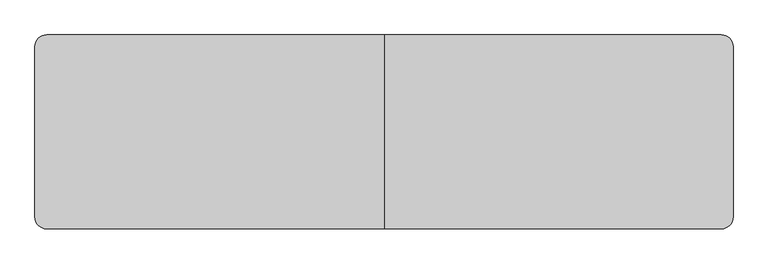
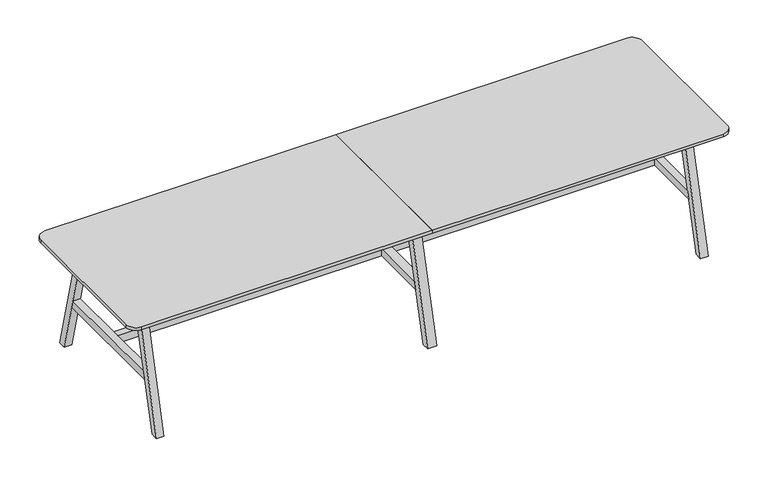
"""IFC4 building model written with IfcOpenShell, lengths in millimetres: furniture geometry, BDG_BossDesign_Tbls_AgentTables6Legs : AGE-DT-6L-3600-1000-3D."""

from ifc_helpers import new_model, si_unit, point, frame, frame_2d, origin, place, context, project, spatial, polyline, circle_curve, trimmed, segment, composite_curve, outline, extrude, source, transform, mapped, element, save


def furniture_64fc31fd(model_context):
    return source(origin(), model_context, "Body", "SweptSolid", [
        extrude(outline(polyline([(500.0, 0.0), (454.9999949, 0.0), (285.5, 660.0), (330.5000051, 660.0), (500.0, 0.0)])), frame((-27.5, 0.0, 0.0), z_axis=(1.0, 0.0, 0.0), x_axis=(0.0, 1.0, 0.0)), (0.0, 0.0, 1.0), 55.0),
        extrude(outline(polyline([(-500.0, 0.0), (-330.5000051, 660.0), (-285.5, 660.0), (-454.9999949, 0.0), (-500.0, 0.0)])), frame((-27.5, 0.0, 0.0), z_axis=(1.0, 0.0, 0.0), x_axis=(0.0, 1.0, 0.0)), (0.0, 0.0, 1.0), 55.0),
        extrude(outline(polyline([(377.9545427, 300.0), (-377.9545427, 300.0), (-366.3977249, 345.0), (366.3977249, 345.0), (377.9545427, 300.0)])), frame((-27.5, 0.0, 0.0), z_axis=(1.0, 0.0, 0.0), x_axis=(0.0, 1.0, 0.0)), (0.0, 0.0, 1.0), 55.0),
        extrude(outline(composite_curve([segment(polyline([(0.0, 500.0), (0.0, -500.0), (-1740.0, -500.0)]), True, "CONTINUOUS"), segment(trimmed(circle_curve(frame_2d((-1740.0, -440.0)), 60.0), [point((-1740.0, -500.0))], [point((-1800.0, -440.0))], False, "CARTESIAN"), True, "CONTINUOUS"), segment(polyline([(-1800.0, -440.0), (-1800.0, 440.0)]), True, "CONTINUOUS"), segment(trimmed(circle_curve(frame_2d((-1740.0, 440.0)), 60.0), [point((-1800.0, 440.0))], [point((-1740.0, 500.0))], False, "CARTESIAN"), True, "CONTINUOUS"), segment(polyline([(-1740.0, 500.0), (0.0, 500.0)]), True, "CONTINUOUS")], self_intersect=False)), frame((0.0, 0.0, 722.0), z_axis=(0.0, 0.0, 1.0), x_axis=(1.0, 0.0, 0.0)), (0.0, 0.0, 1.0), 18.0),
        extrude(outline(polyline([(-366.3977249, 345.0), (366.3977249, 345.0), (377.9545427, 300.0), (-377.9545427, 300.0), (-366.3977249, 345.0)])), frame((1605.0, 0.0, 0.0), z_axis=(1.0, 0.0, 0.0), x_axis=(0.0, 1.0, 0.0)), (0.0, 0.0, 1.0), 45.0),
        extrude(outline(polyline([(500.0, 0.0), (454.9999949, 0.0), (285.5, 660.0), (330.5000051, 660.0), (500.0, 0.0)])), frame((-1650.0, 0.0, 0.0), z_axis=(1.0, 0.0, 0.0), x_axis=(0.0, 1.0, 0.0)), (0.0, 0.0, 1.0), 45.0),
        extrude(outline(polyline([(-500.0, 0.0), (-330.5000051, 660.0), (-285.5, 660.0), (-454.9999949, 0.0), (-500.0, 0.0)])), frame((-1650.0, 0.0, 0.0), z_axis=(1.0, 0.0, 0.0), x_axis=(0.0, 1.0, 0.0)), (0.0, 0.0, 1.0), 45.0),
        extrude(outline(polyline([(-366.3977249, 345.0), (366.3977249, 345.0), (377.9545427, 300.0), (-377.9545427, 300.0), (-366.3977249, 345.0)])), frame((-1650.0, 0.0, 0.0), z_axis=(1.0, 0.0, 0.0), x_axis=(0.0, 1.0, 0.0)), (0.0, 0.0, 1.0), 45.0),
        extrude(outline(polyline([(-326.6006165, 634.973938), (-304.2770691, 722.0), (-279.5, 722.0), (-301.8235474, 634.973938), (-326.6006165, 634.973938)])), frame((-1605.0, 0.0, 0.0), z_axis=(1.0, 0.0, 0.0), x_axis=(0.0, 1.0, 0.0)), (0.0, 0.0, 1.0), 3210.0),
        extrude(outline(polyline([(326.6006165, 634.973938), (301.8235474, 634.973938), (279.5, 722.0), (304.2770691, 722.0), (326.6006165, 634.973938)])), frame((-1605.0, 0.0, 0.0), z_axis=(1.0, 0.0, 0.0), x_axis=(0.0, 1.0, 0.0)), (0.0, 0.0, 1.0), 3210.0),
        extrude(outline(polyline([(499.7999878, 0.0), (454.7999827, 0.0), (285.5, 660.0), (330.5000051, 660.0), (499.7999878, 0.0)])), frame((1605.0, 0.0, 0.0), z_axis=(1.0, 0.0, 0.0), x_axis=(0.0, 1.0, 0.0)), (0.0, 0.0, 1.0), 45.0),
        extrude(outline(polyline([(-499.7999878, 0.0), (-330.5000051, 660.0), (-285.5, 660.0), (-454.7999827, 0.0), (-499.7999878, 0.0)])), frame((1605.0, 0.0, 0.0), z_axis=(1.0, 0.0, 0.0), x_axis=(0.0, 1.0, 0.0)), (0.0, 0.0, 1.0), 45.0),
        extrude(outline(polyline([(-27.5, 22.5000305), (-27.5, -22.5000305), (-1605.0, -22.5000305), (-1605.0, 22.5000305), (-27.5, 22.5000305)])), frame((0.0, 0.0, 300.0), z_axis=(0.0, 0.0, 1.0), x_axis=(1.0, 0.0, 0.0)), (0.0, 0.0, 1.0), 45.0),
        extrude(outline(polyline([(27.5, -22.5000305), (27.5, 22.5000305), (1605.0, 22.5000305), (1605.0, -22.5000305), (27.5, -22.5000305)])), frame((0.0, 0.0, 300.0), z_axis=(0.0, 0.0, 1.0), x_axis=(1.0, 0.0, 0.0)), (0.0, 0.0, 1.0), 45.0),
        extrude(outline(composite_curve([segment(trimmed(circle_curve(frame_2d((1740.0, 440.0)), 60.0), [point((1740.0, 500.0))], [point((1800.0, 440.0))], False, "CARTESIAN"), True, "CONTINUOUS"), segment(polyline([(1800.0, 440.0), (1800.0, -440.0)]), True, "CONTINUOUS"), segment(trimmed(circle_curve(frame_2d((1740.0, -440.0)), 60.0), [point((1800.0, -440.0))], [point((1740.0, -500.0))], False, "CARTESIAN"), True, "CONTINUOUS"), segment(polyline([(1740.0, -500.0), (0.0, -500.0), (0.0, 500.0), (1740.0, 500.0)]), True, "CONTINUOUS")], self_intersect=False)), frame((0.0, 0.0, 722.0), z_axis=(0.0, 0.0, 1.0), x_axis=(1.0, 0.0, 0.0)), (0.0, 0.0, 1.0), 18.0),
    ])


if __name__ == "__main__":
    model = new_model("IFC4")
    model_context = context("Model", 3, world=origin())
    ifc_project = project(units=[si_unit("LENGTHUNIT", "METRE", prefix="MILLI")], contexts=[model_context])
    site = spatial("IfcSite", under=ifc_project)
    building = spatial("IfcBuilding", under=site)
    placement = place(None, origin())
    furniture_shape = furniture_64fc31fd(model_context)
    element("IfcFurniture", 1, ObjectType="BDG_BossDesign_Tbls_AgentTables6Legs : AGE-DT-6L-3600-1000-3D", at=placement, inside=building, context=model_context, shape_type="MappedRepresentation", body=[
        mapped(furniture_shape, transform((0.0, 0.0, 0.0), x_axis=(1.0, 0.0, 0.0), y_axis=(0.0, 1.0, 0.0), z_axis=(0.0, 0.0, 1.0))),
    ])
    save(model, "model.ifc")
